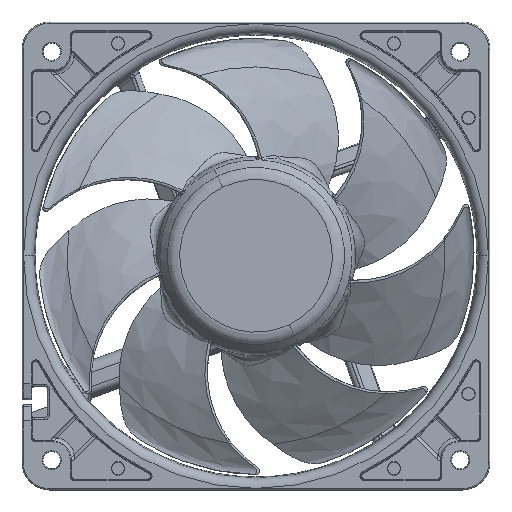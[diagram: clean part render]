
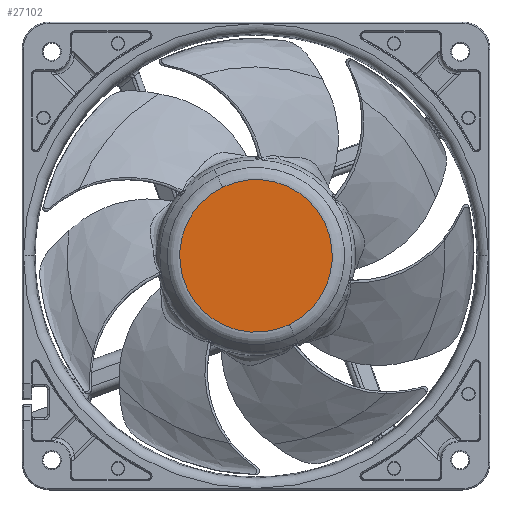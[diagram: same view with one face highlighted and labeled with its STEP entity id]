
A CAD part, top view. The second image highlights one B-rep face of the part: STEP entity #27102.
In plain terms, the highlighted planar face has unit normal (0, 0, 1).
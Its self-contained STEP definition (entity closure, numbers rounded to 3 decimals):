
#1210 = VERTEX_POINT ( 'NONE', #47276 ) ;
#2365 = CARTESIAN_POINT ( 'NONE',  ( 0., 0., 24.7 ) ) ;
#7016 = DIRECTION ( 'NONE',  ( -0.434, 0.901, 0. ) ) ;
#7921 = DIRECTION ( 'NONE',  ( 0., 0., 1. ) ) ;
#16806 = DIRECTION ( 'NONE',  ( -0.434, 0.901, 0. ) ) ;
#21627 = CARTESIAN_POINT ( 'NONE',  ( -8.494, 17.639, 24.7 ) ) ;
#22075 = CIRCLE ( 'NONE', #56290, 19.578 ) ;
#22907 = CIRCLE ( 'NONE', #58077, 19.578 ) ;
#24476 = AXIS2_PLACEMENT_3D ( 'NONE', #25692, #48949, #7016 ) ;
#25692 = CARTESIAN_POINT ( 'NONE',  ( 0., 0., 24.7 ) ) ;
#27102 = ADVANCED_FACE ( 'NONE', ( #35169 ), #53537, .T. ) ;
#29680 = EDGE_CURVE ( 'NONE', #29898, #1210, #22907, .T. ) ;
#29898 = VERTEX_POINT ( 'NONE', #21627 ) ;
#30558 = CARTESIAN_POINT ( 'NONE',  ( 0., 0., 24.7 ) ) ;
#35169 = FACE_OUTER_BOUND ( 'NONE', #41970, .T. ) ;
#39116 = DIRECTION ( 'NONE',  ( 0., 0., 1. ) ) ;
#41970 = EDGE_LOOP ( 'NONE', ( #50563, #57219 ) ) ;
#43719 = DIRECTION ( 'NONE',  ( -0.434, 0.901, 0. ) ) ;
#47276 = CARTESIAN_POINT ( 'NONE',  ( 8.494, -17.639, 24.7 ) ) ;
#48949 = DIRECTION ( 'NONE',  ( 0., 0., 1. ) ) ;
#50563 = ORIENTED_EDGE ( 'NONE', *, *, #29680, .T. ) ;
#53537 = PLANE ( 'NONE',  #24476 ) ;
#56290 = AXIS2_PLACEMENT_3D ( 'NONE', #30558, #7921, #16806 ) ;
#57219 = ORIENTED_EDGE ( 'NONE', *, *, #58495, .T. ) ;
#58077 = AXIS2_PLACEMENT_3D ( 'NONE', #2365, #39116, #43719 ) ;
#58495 = EDGE_CURVE ( 'NONE', #1210, #29898, #22075, .T. ) ;
